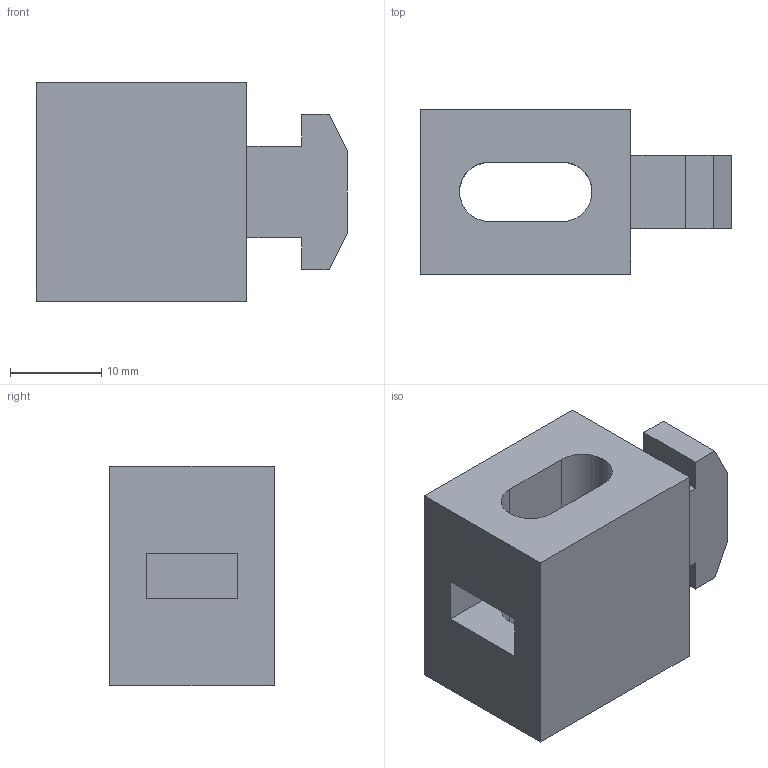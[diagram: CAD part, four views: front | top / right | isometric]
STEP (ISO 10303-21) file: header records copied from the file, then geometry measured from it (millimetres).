
FILE_DESCRIPTION (( 'STEP AP203' ), '1' );
FILE_NAME ('92-CE-PM-45E.STEP', '2015-07-09T08:34:02', ( '' ), ( '' ), 'SwSTEP 2.0', 'SolidWorks 2013', '' );
FILE_SCHEMA (( 'CONFIG_CONTROL_DESIGN' ));
Length unit declared in the file: millimetre
Products named in the file (1): 92-CE-PM-45E
Bounding box: 34 x 18 x 24 mm (x, y, z)
Volume: 8413.5 mm3; surface area: 4284.8 mm2
Topology: 1 solids, 1 shells, 32 faces, 84 edges, 56 vertices
Faces by surface type: plane 26, cylinder 6
Entity records: 1065 total; most frequent: CARTESIAN_POINT 173, ORIENTED_EDGE 168, DIRECTION 162, EDGE_CURVE 84, VECTOR 72, LINE 72, VERTEX_POINT 56, AXIS2_PLACEMENT_3D 45
